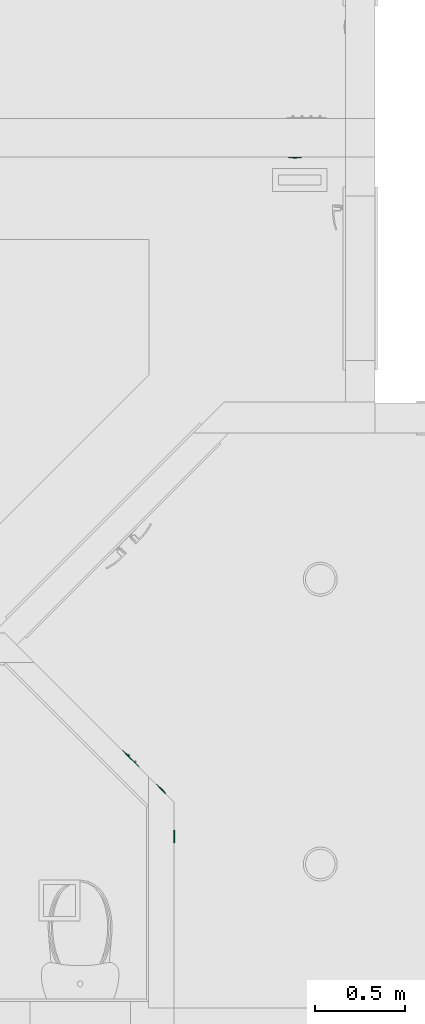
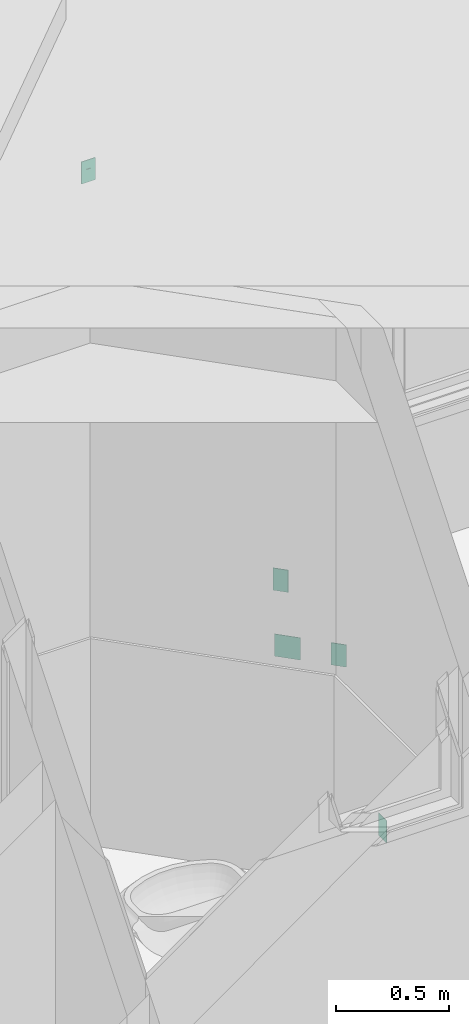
# One storey, part 32 of 103: 5 flow controllers.
"""IFC2X3 building model written with IfcOpenShell, lengths in inches."""

from ifc_helpers import new_model, entity, si_unit, converted_unit, derived_unit, money_unit, direction, frame, origin_with_axes, place, context, subcontext, project, spatial, faceted_brep, source, transform, mapped, type_object, element, save


model = new_model("IFC2X3")

# Units and contexts
model_context = context("Model", 3, precision=0.00039370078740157, world=origin_with_axes(), true_north=direction((0.0, 1.0)))
plan_context = context("Plan", 3, precision=0.00039370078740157, world=origin_with_axes(), true_north=direction((0.0, 1.0)))
body_context = subcontext(model_context, "Body", "Model", "MODEL_VIEW")
ifc_project = project(units=[converted_unit("LENGTHUNIT", "INCH", entity("IfcPositiveLengthMeasure", 0.0254), si_unit("LENGTHUNIT", "METRE"), dimensions=[1, 0, 0, 0, 0, 0, 0]), converted_unit("AREAUNIT", "SQUARE_FOOT", entity("IfcPositiveLengthMeasure", 0.09290304), si_unit("AREAUNIT", "SQUARE_METRE"), dimensions=[2, 0, 0, 0, 0, 0, 0]), si_unit("PLANEANGLEUNIT", "RADIAN"), si_unit("SOLIDANGLEUNIT", "STERADIAN"), money_unit("USD"), converted_unit("TIMEUNIT", "Year", entity("IfcTimeMeasure", 31557600.0), si_unit("TIMEUNIT", "SECOND"), dimensions=[0, 0, 1, 0, 0, 0, 0]), si_unit("MASSUNIT", "GRAM", prefix="KILO"), si_unit("THERMODYNAMICTEMPERATUREUNIT", "DEGREE_CELSIUS"), si_unit("LUMINOUSINTENSITYUNIT", "LUMEN"), si_unit("ENERGYUNIT", "JOULE", prefix="MEGA"), derived_unit("SPECIFICHEATCAPACITYUNIT", [(si_unit("ENERGYUNIT", "JOULE"), 1), (si_unit("MASSUNIT", "GRAM", prefix="KILO"), -1), (si_unit("THERMODYNAMICTEMPERATUREUNIT", "KELVIN"), -1)])], contexts=[model_context, plan_context])

# Site, building, storey
site_placement = place(None, origin_with_axes())
site = spatial("IfcSite", under=ifc_project, at=site_placement, Name="Site", CompositionType="ELEMENT")
building_placement = place(site_placement, origin_with_axes())
building = spatial("IfcBuilding", under=site, at=building_placement, Name="Building", CompositionType="ELEMENT")
storey_placement = place(building_placement, frame((0.0, 0.0, 127.9999999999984), z_axis=(0.0, 0.0, 1.0), x_axis=(1.0, 0.0, 0.0)))
storey = spatial("IfcBuildingStorey", under=building, at=storey_placement, Name="Second Floor", CompositionType="ELEMENT", Elevation=128.0)

# Flow controllers
switching_device_type_1 = type_object("IfcSwitchingDeviceType", Name="Outlet 1 US", PredefinedType="NOTDEFINED")
shared_shape_1 = source(origin_with_axes(), body_context, "Body", "Brep", [
    faceted_brep([(0.39370078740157, -0.03444881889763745, -1.18110236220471), (0.5436477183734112, -0.03444881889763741, -0.7086614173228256), (0.5436477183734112, -0.2165354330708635, -0.7086614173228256), (0.39370078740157, -0.2165354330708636, -1.18110236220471), (-0.3937007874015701, -0.03444881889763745, -1.181102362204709), (-0.543647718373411, -0.03444881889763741, -0.7086614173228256), (-0.39370078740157, -0.03444881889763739, -0.2362204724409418), (0.3937007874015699, -0.03444881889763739, -0.2362204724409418), (-0.196850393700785, -0.03444881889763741, -0.7086614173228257), (-0.196850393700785, -0.0344488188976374, -0.4724409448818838), (-0.275590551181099, -0.0344488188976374, -0.4724409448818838), (-0.275590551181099, -0.03444881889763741, -0.7086614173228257), (0.196850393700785, -0.03444881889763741, -0.7086614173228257), (0.275590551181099, -0.03444881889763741, -0.7086614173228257), (0.275590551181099, -0.0344488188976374, -0.4724409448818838), (0.196850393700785, -0.0344488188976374, -0.4724409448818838), (-0.078740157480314, -0.03444881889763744, -1.102362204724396), (0.078740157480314, -0.03444881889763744, -1.102362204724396), (0.078740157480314, -0.03444881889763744, -1.023622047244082), (0.06819097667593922, -0.03444881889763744, -0.9842519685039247), (0.03937007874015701, -0.03444881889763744, -0.9554310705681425), (0.0, -0.03444881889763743, -0.9448818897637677), (-0.03937007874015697, -0.03444881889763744, -0.9554310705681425), (-0.06819097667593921, -0.03444881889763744, -0.9842519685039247), (-0.078740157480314, -0.03444881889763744, -1.023622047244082), (0.3937007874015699, -0.2165354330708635, -0.2362204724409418), (-0.39370078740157, -0.2165354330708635, -0.2362204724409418), (-0.543647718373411, -0.2165354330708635, -0.7086614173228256), (-0.3937007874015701, -0.2165354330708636, -1.181102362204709), (-0.196850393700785, -0.2165354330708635, -0.7086614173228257), (-0.275590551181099, -0.2165354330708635, -0.7086614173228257), (-0.275590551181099, -0.2165354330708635, -0.4724409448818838), (-0.196850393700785, -0.2165354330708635, -0.4724409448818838), (0.196850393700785, -0.2165354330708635, -0.7086614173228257), (0.196850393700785, -0.2165354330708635, -0.4724409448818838), (0.275590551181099, -0.2165354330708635, -0.4724409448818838), (0.275590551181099, -0.2165354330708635, -0.7086614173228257), (-0.078740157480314, -0.2165354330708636, -1.102362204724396), (-0.078740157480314, -0.2165354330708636, -1.023622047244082), (-0.06819097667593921, -0.2165354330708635, -0.9842519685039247), (-0.03937007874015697, -0.2165354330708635, -0.9554310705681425), (0.0, -0.2165354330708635, -0.9448818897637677), (0.03937007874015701, -0.2165354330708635, -0.9554310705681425), (0.06819097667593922, -0.2165354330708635, -0.9842519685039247), (0.078740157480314, -0.2165354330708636, -1.023622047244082), (0.078740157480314, -0.2165354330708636, -1.102362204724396)], [[[0, 1, 2, 3]], [[0, 4, 5, 6, 7, 1], [8, 9, 10, 11], [12, 13, 14, 15], [16, 17, 18, 19, 20, 21, 22, 23, 24]], [[1, 7, 25, 2]], [[3, 2, 25, 26, 27, 28], [29, 30, 31, 32], [33, 34, 35, 36], [37, 38, 39, 40, 41, 42, 43, 44, 45]], [[4, 0, 3, 28]], [[5, 4, 28, 27]], [[6, 5, 27, 26]], [[7, 6, 26, 25]], [[9, 8, 29, 32]], [[10, 9, 32, 31]], [[11, 10, 31, 30]], [[8, 11, 30, 29]], [[13, 12, 33, 36]], [[14, 13, 36, 35]], [[15, 14, 35, 34]], [[12, 15, 34, 33]], [[17, 16, 37, 45]], [[18, 17, 45, 44]], [[19, 18, 44, 43]], [[20, 19, 43, 42]], [[21, 20, 42, 41]], [[22, 21, 41, 40]], [[23, 22, 40, 39]], [[24, 23, 39, 38]], [[16, 24, 38, 37]]]),
    faceted_brep([(0.39370078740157, -0.03444881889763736, 0.2362204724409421), (0.5436477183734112, -0.03444881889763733, 0.7086614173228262), (0.5436477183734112, -0.2165354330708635, 0.7086614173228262), (0.39370078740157, -0.2165354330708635, 0.2362204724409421), (-0.3937007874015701, -0.03444881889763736, 0.2362204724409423), (-0.543647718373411, -0.03444881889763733, 0.7086614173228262), (-0.39370078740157, -0.0344488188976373, 1.18110236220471), (0.3937007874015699, -0.0344488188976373, 1.18110236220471), (-0.196850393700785, -0.03444881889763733, 0.7086614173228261), (-0.196850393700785, -0.03444881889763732, 0.944881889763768), (-0.275590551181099, -0.03444881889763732, 0.944881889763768), (-0.275590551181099, -0.03444881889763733, 0.7086614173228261), (0.196850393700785, -0.03444881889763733, 0.7086614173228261), (0.275590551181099, -0.03444881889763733, 0.7086614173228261), (0.275590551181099, -0.03444881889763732, 0.944881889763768), (0.196850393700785, -0.03444881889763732, 0.944881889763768), (-0.078740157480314, -0.03444881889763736, 0.3149606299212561), (0.078740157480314, -0.03444881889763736, 0.3149606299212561), (0.078740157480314, -0.03444881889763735, 0.3937007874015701), (0.06819097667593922, -0.03444881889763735, 0.4330708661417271), (0.03937007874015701, -0.03444881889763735, 0.4618917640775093), (0.0, -0.03444881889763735, 0.472440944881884), (-0.03937007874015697, -0.03444881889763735, 0.4618917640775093), (-0.06819097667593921, -0.03444881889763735, 0.4330708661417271), (-0.078740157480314, -0.03444881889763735, 0.3937007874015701), (0.3937007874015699, -0.2165354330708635, 1.18110236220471), (-0.39370078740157, -0.2165354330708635, 1.18110236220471), (-0.543647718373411, -0.2165354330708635, 0.7086614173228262), (-0.3937007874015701, -0.2165354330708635, 0.2362204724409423), (-0.196850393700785, -0.2165354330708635, 0.7086614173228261), (-0.275590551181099, -0.2165354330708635, 0.7086614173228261), (-0.275590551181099, -0.2165354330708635, 0.944881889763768), (-0.196850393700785, -0.2165354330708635, 0.944881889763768), (0.196850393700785, -0.2165354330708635, 0.7086614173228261), (0.196850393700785, -0.2165354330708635, 0.944881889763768), (0.275590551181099, -0.2165354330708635, 0.944881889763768), (0.275590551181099, -0.2165354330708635, 0.7086614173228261), (-0.078740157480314, -0.2165354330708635, 0.3149606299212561), (-0.078740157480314, -0.2165354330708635, 0.3937007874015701), (-0.06819097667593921, -0.2165354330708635, 0.4330708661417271), (-0.03937007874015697, -0.2165354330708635, 0.4618917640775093), (0.0, -0.2165354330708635, 0.472440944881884), (0.03937007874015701, -0.2165354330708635, 0.4618917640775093), (0.06819097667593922, -0.2165354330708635, 0.4330708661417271), (0.078740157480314, -0.2165354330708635, 0.3937007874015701), (0.078740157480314, -0.2165354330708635, 0.3149606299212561)], [[[0, 1, 2, 3]], [[0, 4, 5, 6, 7, 1], [8, 9, 10, 11], [12, 13, 14, 15], [16, 17, 18, 19, 20, 21, 22, 23, 24]], [[1, 7, 25, 2]], [[3, 2, 25, 26, 27, 28], [29, 30, 31, 32], [33, 34, 35, 36], [37, 38, 39, 40, 41, 42, 43, 44, 45]], [[4, 0, 3, 28]], [[5, 4, 28, 27]], [[6, 5, 27, 26]], [[7, 6, 26, 25]], [[9, 8, 29, 32]], [[10, 9, 32, 31]], [[11, 10, 31, 30]], [[8, 11, 30, 29]], [[13, 12, 33, 36]], [[14, 13, 36, 35]], [[15, 14, 35, 34]], [[12, 15, 34, 33]], [[17, 16, 37, 45]], [[18, 17, 45, 44]], [[19, 18, 44, 43]], [[20, 19, 43, 42]], [[21, 20, 42, 41]], [[22, 21, 41, 40]], [[23, 22, 40, 39]], [[24, 23, 39, 38]], [[16, 24, 38, 37]]]),
    faceted_brep([(-1.343503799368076, -0.1377952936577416, -2.327755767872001), (1.343503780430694, -0.1377952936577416, -2.327755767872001), (1.343503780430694, -0.1377952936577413, 2.327755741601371), (-1.343503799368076, -0.1377952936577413, 2.327755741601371), (0.39370078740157, -0.1377952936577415, -1.18110236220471), (-0.3937007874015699, -0.1377952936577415, -1.181102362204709), (-0.5436477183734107, -0.1377952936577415, -0.7086614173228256), (-0.39370078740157, -0.1377952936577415, -0.2362204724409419), (0.3937007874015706, -0.1377952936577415, -0.2362204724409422), (0.5436477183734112, -0.1377952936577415, -0.7086614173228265), (-0.39370078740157, -0.1377952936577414, 1.18110236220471), (0.3937007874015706, -0.1377952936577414, 1.18110236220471), (0.5436477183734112, -0.1377952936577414, 0.7086614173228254), (0.39370078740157, -0.1377952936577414, 0.236220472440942), (-0.3937007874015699, -0.1377952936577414, 0.2362204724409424), (-0.5436477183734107, -0.1377952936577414, 0.7086614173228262), (-1.352419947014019, -0.1366214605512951, -2.336671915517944), (1.352419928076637, -0.1366214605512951, -2.336671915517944), (1.352419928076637, -0.1366214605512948, 2.336671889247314), (-1.352419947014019, -0.1366214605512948, 2.336671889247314), (0.39370078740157, -0.03444881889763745, -1.18110236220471), (-0.3937007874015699, -0.03444881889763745, -1.181102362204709), (-0.5436477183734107, -0.03444881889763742, -0.7086614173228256), (-0.39370078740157, -0.03444881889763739, -0.2362204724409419), (0.3937007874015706, -0.03444881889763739, -0.2362204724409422), (0.5436477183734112, -0.03444881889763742, -0.7086614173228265), (-0.39370078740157, -0.0344488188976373, 1.18110236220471), (0.3937007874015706, -0.0344488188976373, 1.18110236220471), (0.5436477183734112, -0.03444881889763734, 0.7086614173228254), (0.39370078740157, -0.03444881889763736, 0.236220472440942), (-0.3937007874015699, -0.03444881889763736, 0.2362204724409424), (-0.5436477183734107, -0.03444881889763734, 0.7086614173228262), (-1.36786294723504, -0.1277054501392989, -2.352114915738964), (1.367862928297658, -0.1277054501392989, -2.352114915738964), (1.367862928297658, -0.1277054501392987, 2.352114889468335), (-1.36786294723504, -0.1277054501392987, 2.352114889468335), (-1.376778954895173, -0.1122624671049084, -2.361030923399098), (1.376778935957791, -0.1122624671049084, -2.361030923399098), (1.376778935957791, -0.1122624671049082, 2.361030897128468), (-1.376778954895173, -0.1122624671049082, 2.361030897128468), (-1.377952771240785, -0.1033464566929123, -2.362204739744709), (1.377952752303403, -0.1033464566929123, -2.362204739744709), (1.377952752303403, -0.103346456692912, 2.36220471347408), (-1.377952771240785, -0.103346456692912, 2.36220471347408), (-1.377952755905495, 0.0, -2.36220472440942), (1.377952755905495, 0.0, -2.36220472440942), (1.377952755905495, 0.0, 2.36220472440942), (-1.377952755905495, 0.0, 2.36220472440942)], [[[0, 1, 2, 3], [4, 5, 6, 7, 8, 9], [10, 11, 12, 13, 14, 15]], [[1, 0, 16, 17]], [[2, 1, 17, 18]], [[3, 2, 18, 19]], [[0, 3, 19, 16]], [[4, 20, 21, 5]], [[5, 21, 22, 6]], [[6, 22, 23, 7]], [[7, 23, 24, 8]], [[8, 24, 25, 9]], [[9, 25, 20, 4]], [[11, 10, 26, 27]], [[12, 11, 27, 28]], [[13, 12, 28, 29]], [[14, 13, 29, 30]], [[15, 14, 30, 31]], [[10, 15, 31, 26]], [[17, 16, 32, 33]], [[18, 17, 33, 34]], [[19, 18, 34, 35]], [[16, 19, 35, 32]], [[22, 21, 20, 25, 24, 23]], [[28, 27, 26, 31, 30, 29]], [[33, 32, 36, 37]], [[34, 33, 37, 38]], [[35, 34, 38, 39]], [[32, 35, 39, 36]], [[37, 36, 40, 41]], [[38, 37, 41, 42]], [[39, 38, 42, 43]], [[36, 39, 43, 40]], [[41, 40, 44, 45]], [[42, 41, 45, 46]], [[43, 42, 46, 47]], [[40, 43, 47, 44]], [[46, 45, 44, 47]]]),
])
flow_controller_1_placement = place(storey_placement, frame((383.9999999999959, 44.00711758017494, 13.49999999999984), z_axis=(0.0, 0.0, 1.0), x_axis=(0.0, 1.0, 0.0)))
element("IfcFlowController", 1, at=flow_controller_1_placement, inside=storey, type_object=switching_device_type_1, Name="FU - 029", context=body_context, shape_type="MappedRepresentation", body=[
    mapped(shared_shape_1, transform((0.0, 0.0, 0.0))),
])
shared_shape_2 = source(origin_with_axes(), body_context, "Body", "Brep", [
    faceted_brep([(0.39370078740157, -0.0344488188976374, -0.472440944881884), (0.3937007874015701, -0.03444881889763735, 0.472440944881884), (0.3937007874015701, -0.2165354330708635, 0.472440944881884), (0.39370078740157, -0.2165354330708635, -0.472440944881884), (-0.3937007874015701, -0.0344488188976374, -0.4724409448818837), (-0.39370078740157, -0.03444881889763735, 0.472440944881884), (-0.39370078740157, -0.2165354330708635, 0.472440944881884), (-0.3937007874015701, -0.2165354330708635, -0.4724409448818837)], [[[0, 1, 2, 3]], [[0, 4, 5, 1]], [[1, 5, 6, 2]], [[3, 2, 6, 7]], [[4, 0, 3, 7]], [[5, 4, 7, 6]]]),
    faceted_brep([(1.377952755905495, -0.1377952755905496, -2.36220472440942), (1.377952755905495, -0.1377952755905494, 2.36220472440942), (-1.377952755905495, -0.1377952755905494, 2.36220472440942), (-1.377952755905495, -0.1377952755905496, -2.36220472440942), (-0.3937007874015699, -0.1377952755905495, -0.4724409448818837), (-0.39370078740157, -0.1377952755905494, 0.4724409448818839), (0.3937007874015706, -0.1377952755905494, 0.4724409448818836), (0.39370078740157, -0.1377952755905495, -0.472440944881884), (1.377952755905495, 0.0, 2.36220472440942), (1.377952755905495, 0.0, -2.36220472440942), (-1.377952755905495, 0.0, 2.36220472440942), (-1.377952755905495, 0.0, -2.36220472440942), (-0.3937007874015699, -0.0344488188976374, -0.4724409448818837), (-0.39370078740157, -0.03444881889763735, 0.4724409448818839), (0.3937007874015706, -0.03444881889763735, 0.4724409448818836), (0.39370078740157, -0.0344488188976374, -0.472440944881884)], [[[0, 1, 2, 3], [4, 5, 6, 7]], [[8, 1, 0, 9]], [[10, 2, 1, 8]], [[11, 3, 2, 10]], [[9, 0, 3, 11]], [[5, 4, 12, 13]], [[6, 5, 13, 14]], [[7, 6, 14, 15]], [[4, 7, 15, 12]], [[10, 8, 9, 11]], [[14, 13, 12, 15]]]),
])
for number, where, z_axis, x_axis, name in (
    (2, (381.176111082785, 54.32388891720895, 44.99999999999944), (0.0, 0.0, 1.0), (-0.7071067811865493, 0.7071067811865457, 0.0), "OBJ-05"),
    (3, (410.4999999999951, 192.4999999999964, 53.99999999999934), (0.0, 0.0, 1.0), (1.0, 0.0, 0.0), "OBJ-05"),
    (4, (373.7459804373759, 61.75401956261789, 58.99999999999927), (0.0, 0.0, 1.0), (-0.7071067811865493, 0.7071067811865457, 0.0), "OBJ-05"),
):
    element("IfcFlowController", number, at=place(storey_placement, frame(where, z_axis=z_axis, x_axis=x_axis)), inside=storey, type_object=switching_device_type_1, Name=name, context=body_context, shape_type="MappedRepresentation", body=[
        mapped(shared_shape_2, transform((0.0, 0.0, 0.0))),
    ])
switching_device_type_2 = type_object("IfcSwitchingDeviceType", Name="Switch US", PredefinedType="NOTDEFINED")
shared_shape_3 = source(origin_with_axes(), body_context, "Body", "Brep", [
    faceted_brep([(1.18110236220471, 0.0, -0.5905511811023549), (0.7874015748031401, 0.0, -0.5905511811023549), (0.7874015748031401, 0.0, 0.5905511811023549), (1.18110236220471, 0.0, 0.5905511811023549), (1.18110236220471, -0.1033464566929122, -0.5905511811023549), (0.7874015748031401, -0.1033464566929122, -0.5905511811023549), (0.7874015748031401, -0.1033464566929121, 0.157480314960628), (0.7874015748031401, -0.4970472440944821, 0.1574803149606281), (0.7874015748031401, -0.4970472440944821, 0.472440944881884), (0.7874015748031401, -0.1033464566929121, 0.472440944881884), (0.7874015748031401, -0.1033464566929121, 0.5905511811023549), (1.18110236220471, -0.103346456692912, 0.5905511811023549), (1.18110236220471, -0.1033464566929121, 0.472440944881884), (1.18110236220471, -0.4970472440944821, 0.472440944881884), (1.18110236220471, -0.4970472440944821, 0.1574803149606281), (1.18110236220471, -0.1033464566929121, 0.157480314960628)], [[[0, 1, 2, 3]], [[4, 5, 1, 0]], [[1, 5, 6, 7, 8, 9, 10, 2]], [[3, 2, 10, 11]], [[0, 3, 11, 12, 13, 14, 15, 4]], [[15, 6, 5, 4]], [[14, 7, 6, 15]], [[13, 8, 7, 14]], [[12, 9, 8, 13]], [[11, 10, 9, 12]]]),
    faceted_brep([(1.259842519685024, 0.0, -0.669291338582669), (1.259842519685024, -0.1771653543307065, -0.669291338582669), (0.7086614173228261, -0.1771653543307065, -0.669291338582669), (0.7086614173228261, 0.0, -0.669291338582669), (1.259842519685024, 0.0, 0.669291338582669), (1.259842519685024, -0.1771653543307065, 0.669291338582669), (0.7086614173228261, -0.1771653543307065, 0.669291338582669), (1.18110236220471, -0.1771653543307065, -0.5905511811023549), (0.78740157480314, -0.1771653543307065, -0.5905511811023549), (0.78740157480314, -0.1771653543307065, 0.5905511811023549), (1.18110236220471, -0.1771653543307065, 0.5905511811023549), (0.7086614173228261, 0.0, 0.669291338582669), (1.18110236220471, 0.0, -0.5905511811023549), (1.18110236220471, 0.0, 0.5905511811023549), (0.78740157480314, 0.0, 0.5905511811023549), (0.78740157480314, 0.0, -0.5905511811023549)], [[[0, 1, 2, 3]], [[4, 5, 1, 0]], [[1, 5, 6, 2], [7, 8, 9, 10]], [[3, 2, 6, 11]], [[0, 3, 11, 4], [12, 13, 14, 15]], [[11, 6, 5, 4]], [[15, 8, 7, 12]], [[14, 9, 8, 15]], [[13, 10, 9, 14]], [[12, 7, 10, 13]]]),
    faceted_brep([(0.0, -0.103346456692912, 2.362204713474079), (2.362204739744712, -0.103346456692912, 2.362204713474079), (2.36220472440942, 0.0, 2.36220472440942), (0.0, 0.0, 2.36220472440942), (0.0, -0.1122624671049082, 2.361030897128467), (2.361030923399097, -0.1122624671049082, 2.361030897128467), (2.362204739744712, -0.1033464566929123, -2.36220473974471), (2.36220472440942, 0.0, -2.36220472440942), (0.0, 0.0, -2.36220472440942), (0.7086614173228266, 0.0, -0.669291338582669), (1.259842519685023, 0.0, -0.669291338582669), (1.259842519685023, 0.0, 0.669291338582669), (0.7086614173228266, 0.0, 0.669291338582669), (0.0, -0.1033464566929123, -2.36220473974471), (0.0, -0.1122624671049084, -2.361030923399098), (0.0, -0.1277054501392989, -2.352114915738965), (0.0, -0.1366214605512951, -2.336671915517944), (0.0, -0.1377952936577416, -2.327755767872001), (0.0, -0.1377952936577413, 2.32775574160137), (0.0, -0.1366214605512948, 2.336671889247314), (0.0, -0.1277054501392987, 2.352114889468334), (2.352114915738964, -0.1277054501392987, 2.352114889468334), (2.361030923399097, -0.1122624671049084, -2.361030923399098), (0.7086614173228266, -0.1377952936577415, -0.669291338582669), (1.259842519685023, -0.1377952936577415, -0.669291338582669), (1.259842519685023, -0.1377952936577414, 0.669291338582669), (0.7086614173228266, -0.1377952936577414, 0.669291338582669), (2.352114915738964, -0.1277054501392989, -2.352114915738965), (2.336671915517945, -0.1366214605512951, -2.336671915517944), (2.327755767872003, -0.1377952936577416, -2.327755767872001), (2.327755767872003, -0.1377952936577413, 2.32775574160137), (2.336671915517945, -0.1366214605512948, 2.336671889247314)], [[[0, 1, 2, 3]], [[4, 5, 1, 0]], [[6, 7, 2, 1]], [[3, 2, 7, 8], [9, 10, 11, 12]], [[8, 13, 14, 15, 16, 17, 18, 19, 20, 4, 0, 3]], [[20, 21, 5, 4]], [[22, 6, 1, 5]], [[8, 7, 6, 13]], [[10, 9, 23, 24]], [[11, 10, 24, 25]], [[12, 11, 25, 26]], [[9, 12, 26, 23]], [[13, 6, 22, 14]], [[14, 22, 27, 15]], [[15, 27, 28, 16]], [[16, 28, 29, 17]], [[17, 29, 30, 18], [25, 24, 23, 26]], [[18, 30, 31, 19]], [[19, 31, 21, 20]], [[27, 22, 5, 21]], [[28, 27, 21, 31]], [[29, 28, 31, 30]]]),
    faceted_brep([(-0.78740157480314, 0.0, -0.5905511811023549), (-1.18110236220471, 0.0, -0.5905511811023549), (-1.18110236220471, 0.0, 0.5905511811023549), (-0.78740157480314, 0.0, 0.5905511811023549), (-0.78740157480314, -0.1033464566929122, -0.5905511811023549), (-1.18110236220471, -0.1033464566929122, -0.5905511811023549), (-1.18110236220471, -0.1033464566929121, 0.157480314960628), (-1.18110236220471, -0.4970472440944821, 0.1574803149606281), (-1.18110236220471, -0.4970472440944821, 0.472440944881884), (-1.18110236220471, -0.1033464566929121, 0.472440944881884), (-1.18110236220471, -0.1033464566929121, 0.5905511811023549), (-0.78740157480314, -0.103346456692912, 0.5905511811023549), (-0.78740157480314, -0.1033464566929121, 0.472440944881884), (-0.78740157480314, -0.4970472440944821, 0.472440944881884), (-0.78740157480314, -0.4970472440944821, 0.1574803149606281), (-0.78740157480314, -0.1033464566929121, 0.157480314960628)], [[[0, 1, 2, 3]], [[4, 5, 1, 0]], [[1, 5, 6, 7, 8, 9, 10, 2]], [[3, 2, 10, 11]], [[0, 3, 11, 12, 13, 14, 15, 4]], [[15, 6, 5, 4]], [[14, 7, 6, 15]], [[13, 8, 7, 14]], [[12, 9, 8, 13]], [[11, 10, 9, 12]]]),
    faceted_brep([(-0.7086614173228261, 0.0, -0.669291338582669), (-0.7086614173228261, -0.1771653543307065, -0.669291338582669), (-1.259842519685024, -0.1771653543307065, -0.669291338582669), (-1.259842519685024, 0.0, -0.669291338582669), (-0.7086614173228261, 0.0, 0.669291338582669), (-0.7086614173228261, -0.1771653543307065, 0.669291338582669), (-1.259842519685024, -0.1771653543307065, 0.669291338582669), (-0.78740157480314, -0.1771653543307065, -0.5905511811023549), (-1.18110236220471, -0.1771653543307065, -0.5905511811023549), (-1.18110236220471, -0.1771653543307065, 0.5905511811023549), (-0.78740157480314, -0.1771653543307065, 0.5905511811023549), (-1.259842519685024, 0.0, 0.669291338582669), (-0.78740157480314, 0.0, -0.5905511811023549), (-0.78740157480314, 0.0, 0.5905511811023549), (-1.18110236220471, 0.0, 0.5905511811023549), (-1.18110236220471, 0.0, -0.5905511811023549)], [[[0, 1, 2, 3]], [[4, 5, 1, 0]], [[1, 5, 6, 2], [7, 8, 9, 10]], [[3, 2, 6, 11]], [[0, 3, 11, 4], [12, 13, 14, 15]], [[11, 6, 5, 4]], [[15, 8, 7, 12]], [[14, 9, 8, 15]], [[13, 10, 9, 14]], [[12, 7, 10, 13]]]),
    faceted_brep([(0.0, 0.0, -2.36220472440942), (-2.362204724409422, 0.0, -2.36220472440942), (-2.362204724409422, 0.0, 2.36220472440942), (0.0, 0.0, 2.36220472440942), (-1.259842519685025, 0.0, -0.669291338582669), (-0.7086614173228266, 0.0, -0.669291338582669), (-0.7086614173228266, 0.0, 0.669291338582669), (-1.259842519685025, 0.0, 0.669291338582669), (0.0, -0.1033464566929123, -2.36220473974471), (-2.362204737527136, -0.1033464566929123, -2.36220473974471), (-2.362204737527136, -0.103346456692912, 2.362204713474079), (0.0, -0.103346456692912, 2.362204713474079), (0.0, -0.1122624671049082, 2.361030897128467), (0.0, -0.1277054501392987, 2.352114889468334), (0.0, -0.1366214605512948, 2.336671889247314), (0.0, -0.1377952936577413, 2.32775574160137), (0.0, -0.1377952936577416, -2.327755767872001), (0.0, -0.1366214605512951, -2.336671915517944), (0.0, -0.1277054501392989, -2.352114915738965), (0.0, -0.1122624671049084, -2.361030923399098), (-1.259842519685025, -0.1377952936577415, -0.669291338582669), (-0.7086614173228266, -0.1377952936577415, -0.669291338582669), (-0.7086614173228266, -0.1377952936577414, 0.669291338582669), (-1.259842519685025, -0.1377952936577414, 0.669291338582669), (-2.361030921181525, -0.1122624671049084, -2.361030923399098), (-2.361030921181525, -0.1122624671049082, 2.361030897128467), (-2.352114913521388, -0.1277054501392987, 2.352114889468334), (-2.336671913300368, -0.1366214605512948, 2.336671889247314), (-2.327755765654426, -0.1377952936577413, 2.32775574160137), (-2.327755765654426, -0.1377952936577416, -2.327755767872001), (-2.336671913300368, -0.1366214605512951, -2.336671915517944), (-2.352114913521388, -0.1277054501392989, -2.352114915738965)], [[[0, 1, 2, 3], [4, 5, 6, 7]], [[8, 9, 1, 0]], [[10, 2, 1, 9]], [[3, 2, 10, 11]], [[11, 12, 13, 14, 15, 16, 17, 18, 19, 8, 0, 3]], [[5, 4, 20, 21]], [[6, 5, 21, 22]], [[7, 6, 22, 23]], [[4, 7, 23, 20]], [[19, 24, 9, 8]], [[25, 10, 9, 24]], [[11, 10, 25, 12]], [[12, 25, 26, 13]], [[13, 26, 27, 14]], [[14, 27, 28, 15]], [[15, 28, 29, 16], [22, 21, 20, 23]], [[16, 29, 30, 17]], [[17, 30, 31, 18]], [[18, 31, 24, 19]], [[26, 25, 24, 31]], [[27, 26, 31, 30]], [[28, 27, 30, 29]]]),
])
flow_controller_2_placement = place(storey_placement, frame((374.6298639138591, 60.87013608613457, 44.99999999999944), z_axis=(0.0, 0.0, 1.0), x_axis=(-0.707106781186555, 0.70710678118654, 0.0)))
element("IfcFlowController", 5, at=flow_controller_2_placement, inside=storey, type_object=switching_device_type_2, Name="OBJ-09", context=body_context, shape_type="MappedRepresentation", body=[
    mapped(shared_shape_3, transform((0.0, 0.0, 0.0))),
])

save(model, "model.ifc")
